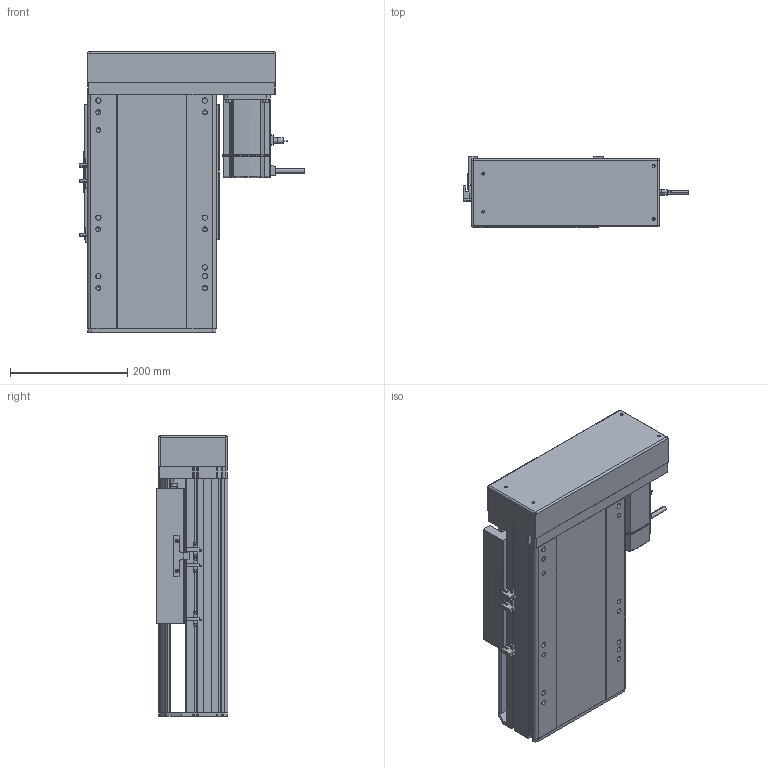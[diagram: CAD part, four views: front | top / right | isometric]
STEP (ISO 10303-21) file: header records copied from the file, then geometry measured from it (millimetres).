
FILE_DESCRIPTION (( 'STEP AP214' ), '1' );
FILE_NAME ('RTH22-XX-100-L-M75-C4.STEP', '2025-10-24T10:54:12', ( 'Microsoft' ), ( 'Microsoft' ), 'SwSTEP 2.0', 'SolidWorks 2018', '' );
FILE_SCHEMA (( 'AUTOMOTIVE_DESIGN' ));
Length unit declared in the file: millimetre
Products named in the file (10): N_RTH22-L-011菁釱^RTH22-XX-XX-L-M75-C4; N_RTH22-L-004-SFS25賑釱^RTH22-XX-XX-L-M75-C4; N_OMRON EE-SX672 传感器^RTH22-XX-XX-L-M75-C4; RTH22-XX-100-L-M75-C4; N_RTH22-GY-013外置感应片^RTH22-XX-XX-L-M75-C4; N_RTH22-L-018裔赽^RTH22-XX-XX-L-M75-C4; N_RTH22-L-007奻裔^RTH22-XX-XX-L-M75-C4; N_RTH22-L-008-P75萇儂啣^RTH22-XX-XX-L-M75-C4; N_RTH22-GY-001耜裔^RTH22-XX-XX-L-M75-C4; N_750W萇儂^RTH22-XX-XX-L-M75-C4
Assembly tree (11 placements, depth 2):
  RTH22-XX-100-L-M75-C4
    N_RTH22-L-011菁釱^RTH22-XX-XX-L-M75-C4
    N_RTH22-GY-001耜裔^RTH22-XX-XX-L-M75-C4
    N_750W萇儂^RTH22-XX-XX-L-M75-C4
    N_RTH22-L-008-P75萇儂啣^RTH22-XX-XX-L-M75-C4
    N_RTH22-L-007奻裔^RTH22-XX-XX-L-M75-C4
    N_RTH22-L-018裔赽^RTH22-XX-XX-L-M75-C4
    N_OMRON EE-SX672 传感器^RTH22-XX-XX-L-M75-C4  x3
    N_RTH22-GY-013外置感应片^RTH22-XX-XX-L-M75-C4
    N_RTH22-L-004-SFS25賑釱^RTH22-XX-XX-L-M75-C4
Bounding box: 384.7 x 122 x 479.7 mm (x, y, z)
Volume: 8385644.3 mm3; surface area: 1073640 mm2
Topology: 11 solids, 11 shells, 1534 faces, 4179 edges, 2701 vertices
Faces by surface type: plane 787, cylinder 422, bspline 279, cone 46
Entity records: 37703 total; most frequent: CARTESIAN_POINT 11670, ORIENTED_EDGE 5358, DIRECTION 4989, EDGE_CURVE 2679, VERTEX_POINT 1737, VECTOR 1693, LINE 1693, AXIS2_PLACEMENT_3D 1648
